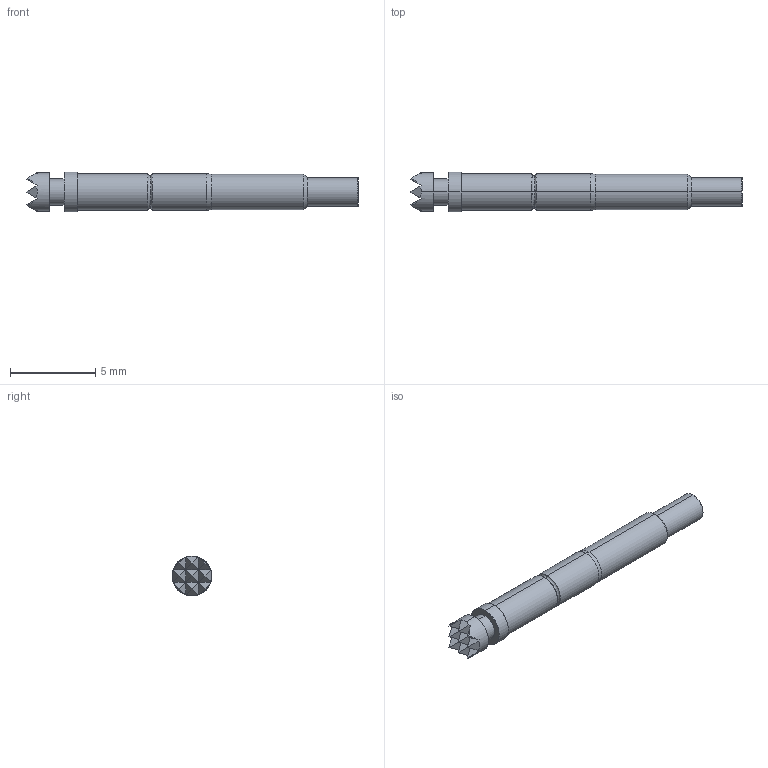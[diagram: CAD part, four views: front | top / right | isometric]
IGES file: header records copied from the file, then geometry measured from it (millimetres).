
Start section: SolidWorks IGES file using analytic representation for surfaces
Global section: file name: O:\PYLON\IGES FILES\F-S\F-S-W REC'D.IGS; native system: SolidWorks 2015; preprocessor: SolidWorks 2015; author: kgolden; date: 171024.102511; units: inch
Bounding box: 19.51 x 2.34 x 2.34 mm (x, y, z)
Surface area: 152.2 mm2 (no closed solid volume)
Topology: 0 solids, 0 shells, 65 faces, 470 edges, 470 vertices
Faces by surface type: bspline 45, revolution 20
